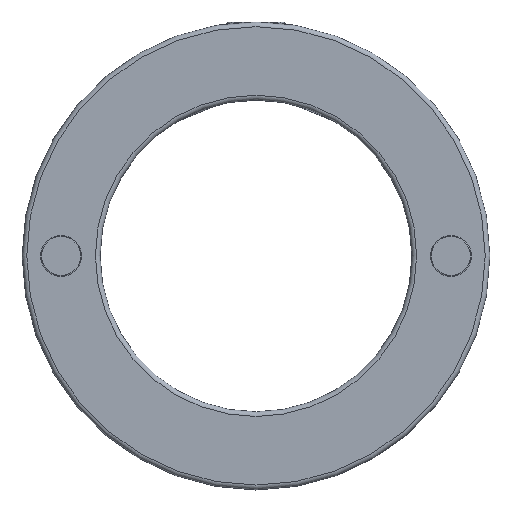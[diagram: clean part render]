
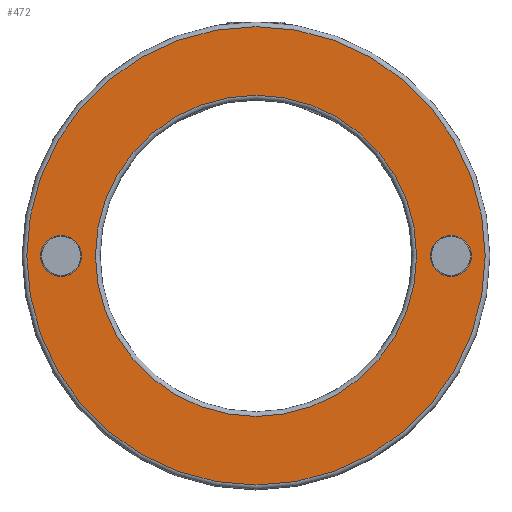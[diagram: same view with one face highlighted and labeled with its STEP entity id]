
A CAD part, top view. The second image highlights one B-rep face of the part: STEP entity #472.
In plain terms, the highlighted planar face has unit normal (0, 0, 1).
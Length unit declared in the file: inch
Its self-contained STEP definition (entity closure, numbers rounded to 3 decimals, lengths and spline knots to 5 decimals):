
#24=FACE_BOUND('',#167,.T.);
#25=FACE_BOUND('',#168,.T.);
#26=FACE_BOUND('',#169,.T.);
#47=PLANE('',#544);
#135=FACE_OUTER_BOUND('',#166,.T.);
#166=EDGE_LOOP('',(#388));
#167=EDGE_LOOP('',(#389));
#168=EDGE_LOOP('',(#390));
#169=EDGE_LOOP('',(#391));
#196=CIRCLE('',#517,0.09843);
#198=CIRCLE('',#520,0.09843);
#199=CIRCLE('',#522,1.1025);
#210=CIRCLE('',#535,0.7725);
#226=VERTEX_POINT('',#746);
#228=VERTEX_POINT('',#752);
#229=VERTEX_POINT('',#756);
#237=VERTEX_POINT('',#776);
#272=EDGE_CURVE('',#226,#226,#196,.T.);
#275=EDGE_CURVE('',#228,#228,#198,.T.);
#276=EDGE_CURVE('',#229,#229,#199,.T.);
#287=EDGE_CURVE('',#237,#237,#210,.T.);
#388=ORIENTED_EDGE('',*,*,#276,.T.);
#389=ORIENTED_EDGE('',*,*,#272,.T.);
#390=ORIENTED_EDGE('',*,*,#275,.T.);
#391=ORIENTED_EDGE('',*,*,#287,.T.);
#472=ADVANCED_FACE('',(#135,#24,#25,#26),#47,.T.);
#517=AXIS2_PLACEMENT_3D('',#748,#599,#600);
#520=AXIS2_PLACEMENT_3D('',#754,#606,#607);
#522=AXIS2_PLACEMENT_3D('',#757,#610,#611);
#535=AXIS2_PLACEMENT_3D('',#778,#636,#637);
#544=AXIS2_PLACEMENT_3D('',#867,#657,#658);
#599=DIRECTION('center_axis',(0.,0.,-1.));
#600=DIRECTION('ref_axis',(1.,0.,0.));
#606=DIRECTION('center_axis',(0.,0.,-1.));
#607=DIRECTION('ref_axis',(1.,0.,0.));
#610=DIRECTION('center_axis',(0.,0.,1.));
#611=DIRECTION('ref_axis',(1.,0.,0.));
#636=DIRECTION('center_axis',(0.,0.,-1.));
#637=DIRECTION('ref_axis',(1.,0.,0.));
#657=DIRECTION('center_axis',(0.,0.,1.));
#658=DIRECTION('ref_axis',(1.,0.,0.));
#746=CARTESIAN_POINT('',(-1.03593,0.,0.75));
#748=CARTESIAN_POINT('Origin',(-0.9375,0.,0.75));
#752=CARTESIAN_POINT('',(0.83907,0.,0.75));
#754=CARTESIAN_POINT('Origin',(0.9375,0.,0.75));
#756=CARTESIAN_POINT('',(-1.1025,0.,0.75));
#757=CARTESIAN_POINT('Origin',(0.,0.,0.75));
#776=CARTESIAN_POINT('',(-0.7725,0.,0.75));
#778=CARTESIAN_POINT('Origin',(0.,0.,0.75));
#867=CARTESIAN_POINT('Origin',(0.,0.,0.75));
